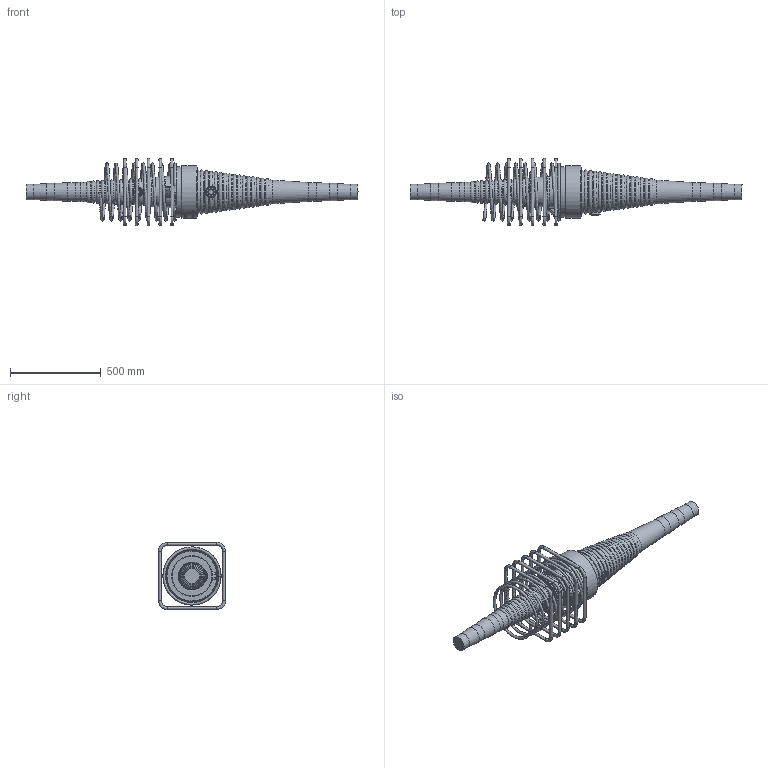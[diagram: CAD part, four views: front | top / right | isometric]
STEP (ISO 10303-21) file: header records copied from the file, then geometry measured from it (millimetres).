
FILE_DESCRIPTION(/* description */ (''),/* implementation_level */ '2;1');
FILE_NAME(/* name */ 'Z:\04 Publications\05 Give-out\BBR\6_3D_Models\BBR VT CONA CMI\BBR VT CONA CMI BT\01606\BBR VT CONA CMI BT 1606_Couler K Assembly_CS-34,28.stp',/* time_stamp */ '2017-05-05T09:18:54+02:00',/* author */ ('IP'),/* organization */ (''),/* preprocessor_version */ 'ST-DEVELOPER v16.1',/* originating_system */ 'Autodesk Inventor 2016',/* authorisation */ '');
FILE_SCHEMA (('AUTOMOTIVE_DESIGN { 1 0 10303 214 3 1 1 }'));
Products named in the file (1): BBR VT CONA CMI BT 1606_Couler K Assembly_CS-34,28
Bounding box: 1830.13 x 370 x 370 mm (x, y, z)
Volume: 37298393.4 mm3; surface area: 1724605.9 mm2
Topology: 7 solids, 8 shells, 980 faces, 2492 edges, 1580 vertices
Faces by surface type: bspline 437, plane 264, torus 128, cylinder 107, cone 34, sphere 10
Full cylindrical faces by diameter (mm): 16 x20, 34 x2, 57 x2, 84 x2, 94 x2, 104 x2, 164 x1, 218 x1, 223.017 x1, 273 x1, 280 x1, 286 x1, 290 x1
Entity records: 43632 total; most frequent: CARTESIAN_POINT 23084, ORIENTED_EDGE 4586, DIRECTION 3027, EDGE_CURVE 2293, VERTEX_POINT 1568, EDGE_LOOP 1231, AXIS2_PLACEMENT_3D 1077, FACE_OUTER_BOUND 980
